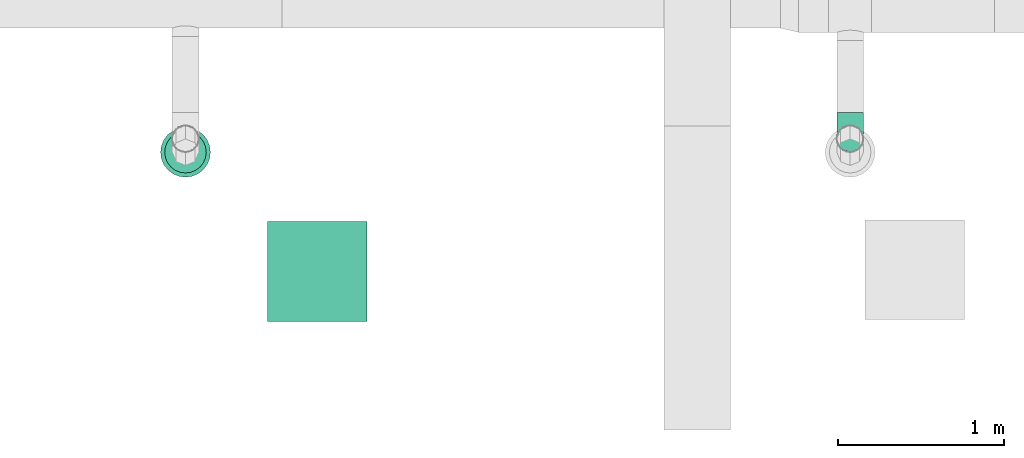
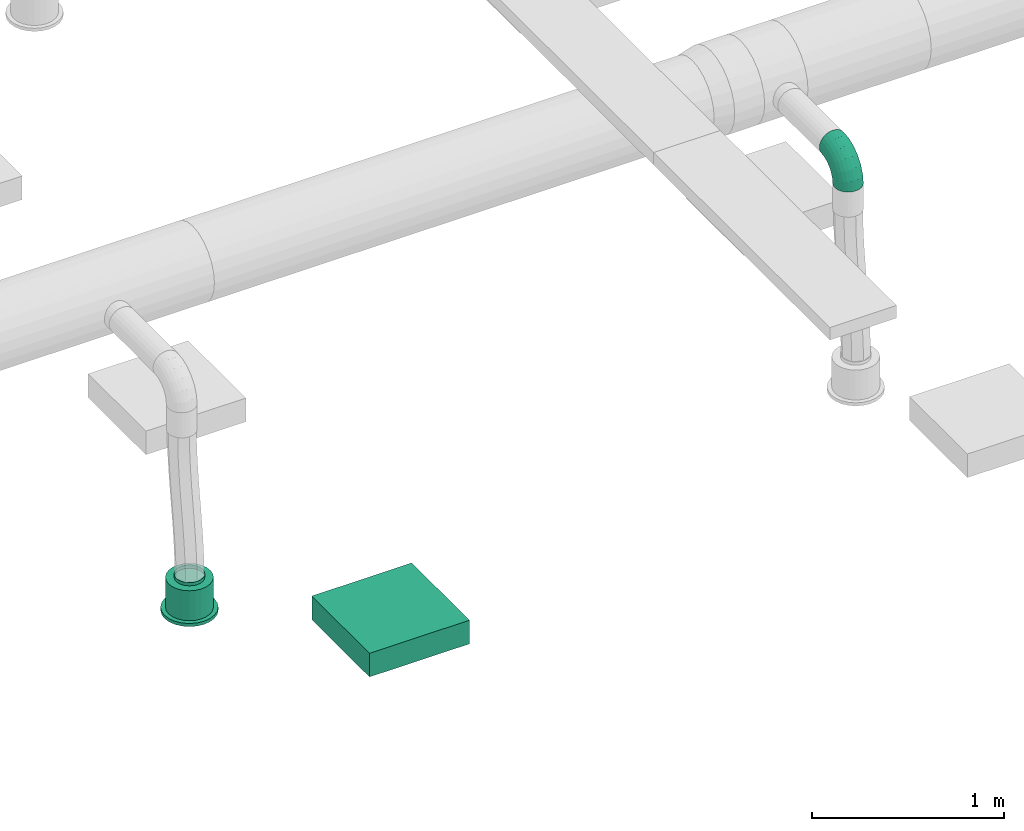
# One storey, part 70 of 374: 1 distribution element, 1 flow fitting, 1 flow terminal.
"""IFC2X3 building model written with IfcOpenShell, lengths in metres."""

import ifcopenshell
import ifcopenshell.guid

model = None  # the IFC model being written
_history = None  # IfcOwnerHistory: only IFC2X3 demands one
_inside = {}  # id of a spatial element -> (the spatial element, [elements in it])
_under = {}  # id of a project, library or spatial element -> (it, [spatial elements below it])
_declared = {}  # id of a project -> (the project, [libraries it declares])
_typed = {}  # id of a type object -> (the type object, [elements of that type])
_made_of = {}  # id of a material, layer set ... -> (it, [elements and type objects made of it])


def new_model(schema):
    """Start an empty IFC model of exactly this schema.

    Asked for "IFC4X3", IfcOpenShell would pick the latest addendum, in which some entities
    have other attributes; the version numbers below select the first issue.
    IFC2X3 requires an IfcOwnerHistory on every rooted entity: one is made here for all.
    """
    global model, _history
    if schema == "IFC4X3":
        model = ifcopenshell.file(schema_version=(4, 3, 0, 0))
    else:
        model = ifcopenshell.file(schema=schema)
    _inside.clear()
    _under.clear()
    _declared.clear()
    _typed.clear()
    _made_of.clear()
    _history = None
    if model.schema == "IFC2X3":
        org = make("IfcOrganization", Name="unknown")
        user = make(
            "IfcPersonAndOrganization",
            ThePerson=make("IfcPerson", FamilyName="unknown"),
            TheOrganization=org,
        )
        app = make(
            "IfcApplication",
            ApplicationDeveloper=org,
            Version="unknown",
            ApplicationFullName="unknown",
            ApplicationIdentifier="unknown",
        )
        _history = make(
            "IfcOwnerHistory",
            OwningUser=user,
            OwningApplication=app,
            ChangeAction="ADDED",
            CreationDate=0,
        )
    return model


def make(cls, **values):
    """One entity of the class cls with the attributes given. An attribute that is None is left unset."""
    return model.create_entity(
        cls, **{name: value for name, value in values.items() if value is not None}
    )


def rooted(cls, **values):
    """An entity with a GlobalId (a new one), such as an element, a storey or a relation."""
    return make(cls, GlobalId=ifcopenshell.guid.new(), OwnerHistory=_history, **values)


def si_unit(unit_type, name, prefix=None):
    """IfcSIUnit, for example si_unit("LENGTHUNIT", "METRE", prefix="MILLI")."""
    return make("IfcSIUnit", UnitType=unit_type, Prefix=prefix, Name=name)


def assignment(units):
    """IfcUnitAssignment: the units of a project."""
    return None if units is None else make("IfcUnitAssignment", Units=units)


def point(xyz):
    """IfcCartesianPoint."""
    return None if xyz is None else make("IfcCartesianPoint", Coordinates=xyz)


def direction(xyz):
    """IfcDirection."""
    return None if xyz is None else make("IfcDirection", DirectionRatios=xyz)


def frame(location, z_axis=None, x_axis=None):
    """IfcAxis2Placement3D, a coordinate frame: its origin and axes. An axis left out is left unset."""
    return make(
        "IfcAxis2Placement3D",
        Location=point(location),
        Axis=direction(z_axis),
        RefDirection=direction(x_axis),
    )


def frame_2d(location, x_axis=None):
    """IfcAxis2Placement2D, a coordinate frame in the plane: its origin and x axis."""
    return make(
        "IfcAxis2Placement2D", Location=point(location), RefDirection=direction(x_axis)
    )


def origin():
    """The frame at (0, 0, 0) with its axes left unset."""
    return frame((0.0, 0.0, 0.0))


def place(relative_to, where):
    """IfcLocalPlacement: puts the frame where relative to a parent placement (None: the world)."""
    return make(
        "IfcLocalPlacement", PlacementRelTo=relative_to, RelativePlacement=where
    )


def context(
    kind, dimensions, precision=None, world=None, true_north=None, identifier=None
):
    """IfcGeometricRepresentationContext, for example the 3D "Model" context."""
    return make(
        "IfcGeometricRepresentationContext",
        ContextIdentifier=identifier,
        ContextType=kind,
        CoordinateSpaceDimension=dimensions,
        Precision=precision,
        WorldCoordinateSystem=world,
        TrueNorth=true_north,
    )


def subcontext(parent, identifier, kind, view, scale=None):
    """IfcGeometricRepresentationSubContext, for example "Body" below "Model"."""
    return make(
        "IfcGeometricRepresentationSubContext",
        ContextIdentifier=identifier,
        ContextType=kind,
        ParentContext=parent,
        TargetScale=scale,
        TargetView=view,
    )


def project(units=None, contexts=None):
    """IfcProject with its units and contexts."""
    return rooted(
        "IfcProject",
        Name="project",
        RepresentationContexts=contexts,
        UnitsInContext=assignment(units),
    )


def spatial(cls, under=None, at=None, **own):
    """A site, building, storey or space (cls), placed at a placement, below another one or the project."""
    s = rooted(cls, ObjectPlacement=at, **own)
    if under is not None:
        _under.setdefault(under.id(), (under, []))[1].append(s)
    return s


def profile(cls, at=None, kind="AREA", **sizes):
    """A parametric profile (cls). Its sizes go by their IFC names, for example OverallWidth=200.0."""
    return make(cls, ProfileType=kind, Position=at, **sizes)


def rectangle(**sizes):
    """IfcRectangleProfileDef."""
    return profile("IfcRectangleProfileDef", **sizes)


def extrude(swept, where, along, depth):
    """IfcExtrudedAreaSolid: the profile swept, set in the frame where, extruded along a direction by depth."""
    return make(
        "IfcExtrudedAreaSolid",
        SweptArea=swept,
        Position=where,
        ExtrudedDirection=direction(along),
        Depth=depth,
    )


def faces_of(points, faces, orient=None, outer=None):
    """IfcFace entities. A face is a list of loops; a loop is a list of indices into points, from 0.

    orient and outer hold one flag for each loop. By default every Orientation is true, the
    first loop of a face is its IfcFaceOuterBound and the others are IfcFaceBound.
    """
    made = []
    for i, loops in enumerate(faces):
        bounds = []
        for j, loop in enumerate(loops):
            is_outer = j == 0 if outer is None else outer[i][j]
            bounds.append(
                make(
                    "IfcFaceOuterBound" if is_outer else "IfcFaceBound",
                    Bound=make("IfcPolyLoop", Polygon=[points[k] for k in loop]),
                    Orientation=True if orient is None else orient[i][j],
                )
            )
        made.append(make("IfcFace", Bounds=bounds))
    return made


def open_shell(faces, orient=None, outer=None):
    """The faces of one IfcOpenShell. surface_model builds it on its shared points."""
    return ("IfcOpenShell", faces, orient, outer)


def surface_model(cls, points, shells):
    """IfcFaceBasedSurfaceModel or IfcShellBasedSurfaceModel (cls): surfaces that need not close."""
    shared = [point(p) for p in points]
    made = [make(c, CfsFaces=faces_of(shared, fs, o, b)) for c, fs, o, b in shells]
    if cls == "IfcFaceBasedSurfaceModel":
        return make(cls, FbsmFaces=made)
    return make(cls, SbsmBoundary=made)


def shape(context_of_items, identifier, shape_type, items):
    """IfcShapeRepresentation: the items that make up one representation, for example the "Body"."""
    return make(
        "IfcShapeRepresentation",
        ContextOfItems=context_of_items,
        RepresentationIdentifier=identifier,
        RepresentationType=shape_type,
        Items=items,
    )


def source(mapping_origin, context_of_items, identifier, shape_type, items):
    """IfcRepresentationMap: a shape defined once, which mapped items show again and again."""
    return make(
        "IfcRepresentationMap",
        MappingOrigin=mapping_origin,
        MappedRepresentation=shape(context_of_items, identifier, shape_type, items),
    )


def transform(
    local_origin,
    x_axis=None,
    y_axis=None,
    z_axis=None,
    scale=None,
    scale2=None,
    scale3=None,
    uniform=True,
):
    """IfcCartesianTransformationOperator3D, or its non-uniform kind. x_axis, y_axis, z_axis: its Axis1, 2, 3."""
    if uniform:
        return make(
            "IfcCartesianTransformationOperator3D",
            Axis1=direction(x_axis),
            Axis2=direction(y_axis),
            LocalOrigin=point(local_origin),
            Scale=scale,
            Axis3=direction(z_axis),
        )
    return make(
        "IfcCartesianTransformationOperator3DnonUniform",
        Axis1=direction(x_axis),
        Axis2=direction(y_axis),
        LocalOrigin=point(local_origin),
        Scale=scale,
        Axis3=direction(z_axis),
        Scale2=scale2,
        Scale3=scale3,
    )


def mapped(mapping_source, mapping_target):
    """IfcMappedItem: shows the shape of a source again, moved by a transform."""
    return make(
        "IfcMappedItem", MappingSource=mapping_source, MappingTarget=mapping_target
    )


def made_of(thing, what):
    """Note that an element or type object is made of a material, layer set ...; save() writes the relation."""
    if what is not None:
        _made_of.setdefault(what.id(), (what, []))[1].append(thing)
    return thing


def element(
    cls,
    number,
    at=None,
    inside=None,
    cuts=None,
    type_object=None,
    material=None,
    context=None,
    identifier="Body",
    shape_type=None,
    held_by="IfcProductDefinitionShape",
    body=None,
    shapes=None,
    **own,
):
    """One element of the class cls, such as IfcWall. Its Tag is "e" and its number.

    at: its placement. inside: the storey or other place that contains it. cuts: it is an
    opening in that element (IfcRelVoidsElement). A single representation is given by context,
    identifier, shape_type and body (its items); several are given by shapes. held_by: the class
    of the entity that holds the representations. save() writes the other relations.
    """
    e = rooted(cls, Tag="e%d" % number, ObjectPlacement=at, **own)
    if body is not None:
        shapes = [shape(context, identifier, shape_type, body)]
    if shapes is not None:
        e.Representation = make(held_by, Representations=shapes)
    if inside is not None:
        _inside.setdefault(inside.id(), (inside, []))[1].append(e)
    if cuts is not None:
        rooted(
            "IfcRelVoidsElement", RelatingBuildingElement=cuts, RelatedOpeningElement=e
        )
    if type_object is not None:
        _typed.setdefault(type_object.id(), (type_object, []))[1].append(e)
    return made_of(e, material)


def aggregate(whole, parts):
    """IfcRelAggregates: a whole, such as a stair, and the parts it consists of."""
    return rooted("IfcRelAggregates", RelatingObject=whole, RelatedObjects=parts)


def save(model, path):
    """Write the relations noted so far, then the file.

    IfcRelAggregates (storeys below a building ...), IfcRelContainedInSpatialStructure (elements
    in a storey), IfcRelDefinesByType, IfcRelAssociatesMaterial and IfcRelDeclares: one each for
    every whole, place, type object, material and project.
    """
    for whole, parts in _under.values():
        aggregate(whole, parts)
    for where, things in _inside.values():
        rooted(
            "IfcRelContainedInSpatialStructure",
            RelatedElements=things,
            RelatingStructure=where,
        )
    for kind, things in _typed.values():
        rooted("IfcRelDefinesByType", RelatedObjects=things, RelatingType=kind)
    for what, things in _made_of.values():
        rooted("IfcRelAssociatesMaterial", RelatedObjects=things, RelatingMaterial=what)
    for by, libraries in _declared.values():
        rooted("IfcRelDeclares", RelatingContext=by, RelatedDefinitions=libraries)
    model.write(path)


model = new_model("IFC2X3")

# Units and contexts
model_context = context("Model", 3, precision=1e-05, world=origin(), true_north=direction((-0.4480736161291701, 0.8939966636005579)))
body_context = subcontext(model_context, "Body", "Model", "MODEL_VIEW")
ifc_project = project(units=[si_unit("LENGTHUNIT", "METRE"), si_unit("AREAUNIT", "SQUARE_METRE"), si_unit("VOLUMEUNIT", "CUBIC_METRE"), si_unit("PLANEANGLEUNIT", "RADIAN"), si_unit("THERMODYNAMICTEMPERATUREUNIT", "KELVIN"), si_unit("MASSUNIT", "GRAM", prefix="KILO"), si_unit("TIMEUNIT", "SECOND")], contexts=[model_context])

# Site, building, storey
site_placement = place(None, origin())
site = spatial("IfcSite", under=ifc_project, at=site_placement, Name="Site 1", CompositionType="ELEMENT")
building_placement = place(site_placement, origin())
building = spatial("IfcBuilding", under=site, at=building_placement, Name="Undefined", CompositionType="ELEMENT")
storey_placement = place(building_placement, origin())
storey = spatial("IfcBuildingStorey", under=building, at=storey_placement, Name="Rez de chauss\x8ee", CompositionType="ELEMENT", Elevation=0.0)

# Flow terminal
shared_shape_1 = source(origin(), body_context, "Body", "SurfaceModel", [
    surface_model("IfcFaceBasedSurfaceModel", [(0.0, 0.0, 0.0), (0.03915785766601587, 0.0, 0.0), (0.03915785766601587, 0.020000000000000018, 0.0), (3.552713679e-15, 0.020000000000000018, 0.0), (0.07698144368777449, 0.0, -0.010134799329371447), (0.07698144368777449, 0.020000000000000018, -0.010134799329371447), (0.11089314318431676, 0.0, -0.02971372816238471), (0.11089314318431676, 0.020000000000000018, -0.02971372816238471), (0.13858192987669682, 0.0, -0.05740251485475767), (0.13858192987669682, 0.020000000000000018, -0.05740251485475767), (0.15816085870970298, 0.0, -0.09131421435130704), (0.15816085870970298, 0.020000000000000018, -0.09131421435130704), (0.16829565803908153, 0.0, -0.12913780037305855), (0.16829565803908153, 0.020000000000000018, -0.12913780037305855), (0.16829565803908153, 0.0, -0.16829565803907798), (0.16829565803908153, 0.020000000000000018, -0.16829565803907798), (0.15816085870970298, 0.0, -0.20611924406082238), (0.15816085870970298, 0.020000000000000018, -0.20611924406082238), (0.13858192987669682, 0.0, -0.24003094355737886), (0.13858192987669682, 0.020000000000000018, -0.24003094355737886), (0.11089314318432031, 0.0, -0.2677197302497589), (0.11089314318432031, 0.020000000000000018, -0.2677197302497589), (0.07698144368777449, 0.0, -0.2872986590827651), (0.07698144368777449, 0.020000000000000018, -0.2872986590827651), (0.039157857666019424, 0.0, -0.29743345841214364), (0.039157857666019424, 0.020000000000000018, -0.29743345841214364), (3.552713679e-15, 0.0, -0.29743345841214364), (3.552713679e-15, 0.020000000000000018, -0.29743345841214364), (-0.03782358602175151, 0.0, -0.2872986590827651), (-0.03782358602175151, 0.020000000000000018, -0.2872986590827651), (-0.07173528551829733, 0.0, -0.2677197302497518), (-0.07173528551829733, 0.020000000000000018, -0.2677197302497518), (-0.0994240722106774, 0.0, -0.24003094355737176), (-0.0994240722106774, 0.020000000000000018, -0.24003094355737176), (-0.11900300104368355, 0.0, -0.2061192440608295), (-0.11900300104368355, 0.020000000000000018, -0.2061192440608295), (-0.1291378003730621, 0.0, -0.16829565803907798), (-0.1291378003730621, 0.020000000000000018, -0.16829565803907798), (-0.1291378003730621, 0.0, -0.12913780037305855), (-0.1291378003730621, 0.020000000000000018, -0.12913780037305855), (-0.11900300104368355, 0.0, -0.09131421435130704), (-0.11900300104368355, 0.020000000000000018, -0.09131421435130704), (-0.0994240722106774, 0.0, -0.05740251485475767), (-0.0994240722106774, 0.020000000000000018, -0.05740251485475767), (-0.07173528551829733, 0.0, -0.029713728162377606), (-0.07173528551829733, 0.020000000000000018, -0.029713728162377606), (-0.03782358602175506, 0.0, -0.010134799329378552), (-0.03782358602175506, 0.020000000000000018, -0.010134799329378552), (0.019578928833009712, 0.0, -0.14871672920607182), (0.019578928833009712, 0.020000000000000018, -0.14871672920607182), (0.003263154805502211, 0.020000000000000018, -0.02478612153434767), (0.035894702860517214, 0.020000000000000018, -0.02478612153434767), (0.035894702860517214, 0.20999999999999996, -0.02478612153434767), (0.003263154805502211, 0.20999999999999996, -0.02478612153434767), (0.06741435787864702, 0.020000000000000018, -0.033231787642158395), (0.06741435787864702, 0.20999999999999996, -0.033231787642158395), (0.0956741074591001, 0.020000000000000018, -0.04954756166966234), (0.0956741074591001, 0.20999999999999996, -0.04954756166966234), (0.11874809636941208, 0.020000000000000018, -0.07262155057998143), (0.11874809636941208, 0.20999999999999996, -0.07262155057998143), (0.13506387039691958, 0.020000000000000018, -0.10088130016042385), (0.13506387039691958, 0.20999999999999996, -0.10088130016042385), (0.1435095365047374, 0.020000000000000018, -0.13240095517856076), (0.1435095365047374, 0.20999999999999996, -0.13240095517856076), (0.1435095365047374, 0.020000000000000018, -0.16503250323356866), (0.1435095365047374, 0.20999999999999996, -0.16503250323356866), (0.13506387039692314, 0.020000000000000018, -0.19655215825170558), (0.13506387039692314, 0.20999999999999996, -0.19655215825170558), (0.11874809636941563, 0.020000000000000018, -0.2248119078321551), (0.11874809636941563, 0.20999999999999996, -0.2248119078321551), (0.09567410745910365, 0.020000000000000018, -0.24788589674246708), (0.09567410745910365, 0.20999999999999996, -0.24788589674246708), (0.06741435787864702, 0.020000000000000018, -0.26420167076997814), (0.06741435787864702, 0.20999999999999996, -0.26420167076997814), (0.035894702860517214, 0.020000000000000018, -0.27264733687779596), (0.035894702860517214, 0.20999999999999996, -0.27264733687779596), (0.0032631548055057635, 0.020000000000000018, -0.27264733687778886), (0.0032631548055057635, 0.20999999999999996, -0.27264733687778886), (-0.028256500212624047, 0.020000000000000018, -0.26420167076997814), (-0.028256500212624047, 0.20999999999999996, -0.26420167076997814), (-0.05651624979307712, 0.020000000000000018, -0.2478858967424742), (-0.05651624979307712, 0.20999999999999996, -0.2478858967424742), (-0.07959023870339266, 0.020000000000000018, -0.2248119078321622), (-0.07959023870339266, 0.20999999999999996, -0.2248119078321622), (-0.09590601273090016, 0.020000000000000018, -0.19655215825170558), (-0.09590601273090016, 0.20999999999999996, -0.19655215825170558), (-0.10435167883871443, 0.020000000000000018, -0.16503250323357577), (-0.10435167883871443, 0.20999999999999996, -0.16503250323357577), (-0.10435167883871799, 0.020000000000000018, -0.13240095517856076), (-0.10435167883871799, 0.20999999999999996, -0.13240095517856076), (-0.09590601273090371, 0.020000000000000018, -0.10088130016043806), (-0.09590601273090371, 0.20999999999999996, -0.10088130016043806), (-0.07959023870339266, 0.020000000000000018, -0.07262155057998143), (-0.07959023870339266, 0.20999999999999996, -0.07262155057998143), (-0.056516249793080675, 0.020000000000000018, -0.04954756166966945), (-0.056516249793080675, 0.20999999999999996, -0.04954756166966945), (-0.028256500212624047, 0.020000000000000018, -0.033231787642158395), (-0.028256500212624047, 0.20999999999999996, -0.033231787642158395), (0.019578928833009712, 0.20999999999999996, -0.14871672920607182), (0.009136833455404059, 0.20999999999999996, -0.06940114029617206), (0.030021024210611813, 0.20999999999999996, -0.06940114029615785), (0.030021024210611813, 0.22999999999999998, -0.06940114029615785), (0.009136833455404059, 0.22999999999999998, -0.06940114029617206), (0.05019360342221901, 0.20999999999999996, -0.07480636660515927), (0.05019360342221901, 0.22999999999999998, -0.07480636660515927), (0.06827984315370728, 0.20999999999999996, -0.08524846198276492), (0.06827984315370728, 0.22999999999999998, -0.08524846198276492), (0.0830471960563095, 0.20999999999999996, -0.10001581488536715), (0.0830471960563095, 0.22999999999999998, -0.10001581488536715), (0.0934892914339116, 0.20999999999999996, -0.11810205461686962), (0.0934892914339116, 0.22999999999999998, -0.11810205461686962), (0.09889451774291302, 0.20999999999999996, -0.13827463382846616), (0.09889451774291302, 0.22999999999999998, -0.13827463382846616), (0.09889451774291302, 0.20999999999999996, -0.15915882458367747), (0.09889451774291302, 0.22999999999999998, -0.15915882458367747), (0.09348929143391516, 0.20999999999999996, -0.179331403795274), (0.09348929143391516, 0.22999999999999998, -0.179331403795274), (0.0830471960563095, 0.20999999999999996, -0.19741764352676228), (0.0830471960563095, 0.22999999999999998, -0.19741764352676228), (0.06827984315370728, 0.20999999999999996, -0.2121849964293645), (0.06827984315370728, 0.22999999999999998, -0.2121849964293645), (0.05019360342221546, 0.20999999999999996, -0.22262709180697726), (0.05019360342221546, 0.22999999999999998, -0.22262709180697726), (0.030021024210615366, 0.20999999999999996, -0.22803231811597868), (0.030021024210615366, 0.22999999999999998, -0.22803231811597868), (0.009136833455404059, 0.20999999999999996, -0.22803231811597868), (0.009136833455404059, 0.22999999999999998, -0.22803231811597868), (-0.011035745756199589, 0.20999999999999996, -0.22262709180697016), (-0.011035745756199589, 0.22999999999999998, -0.22262709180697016), (-0.0291219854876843, 0.20999999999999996, -0.2121849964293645), (-0.0291219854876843, 0.22999999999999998, -0.2121849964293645), (-0.043889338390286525, 0.20999999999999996, -0.19741764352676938), (-0.043889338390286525, 0.22999999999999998, -0.19741764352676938), (-0.05433143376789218, 0.20999999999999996, -0.17933140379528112), (-0.05433143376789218, 0.22999999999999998, -0.17933140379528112), (-0.05973666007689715, 0.20999999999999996, -0.15915882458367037), (-0.05973666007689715, 0.22999999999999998, -0.15915882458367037), (-0.0597366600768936, 0.20999999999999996, -0.13827463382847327), (-0.0597366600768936, 0.22999999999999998, -0.13827463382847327), (-0.05433143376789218, 0.20999999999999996, -0.11810205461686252), (-0.05433143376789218, 0.22999999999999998, -0.11810205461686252), (-0.043889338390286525, 0.20999999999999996, -0.10001581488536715), (-0.043889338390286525, 0.22999999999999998, -0.10001581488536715), (-0.02912198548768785, 0.20999999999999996, -0.08524846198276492), (-0.02912198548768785, 0.22999999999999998, -0.08524846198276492), (-0.011035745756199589, 0.20999999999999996, -0.07480636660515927), (-0.011035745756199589, 0.22999999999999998, -0.07480636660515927)], [open_shell([[[0, 1, 2, 3]], [[1, 4, 5, 2]], [[4, 6, 7, 5]], [[6, 8, 9, 7]], [[8, 10, 11, 9]], [[10, 12, 13, 11]], [[12, 14, 15, 13]], [[14, 16, 17, 15]], [[16, 18, 19, 17]], [[18, 20, 21, 19]], [[20, 22, 23, 21]], [[22, 24, 25, 23]], [[24, 26, 27, 25]], [[26, 28, 29, 27]], [[28, 30, 31, 29]], [[30, 32, 33, 31]], [[32, 34, 35, 33]], [[34, 36, 37, 35]], [[36, 38, 39, 37]], [[38, 40, 41, 39]], [[40, 42, 43, 41]], [[42, 44, 45, 43]], [[44, 46, 47, 45]], [[46, 0, 3, 47]], [[48, 1, 0]], [[48, 4, 1]], [[48, 6, 4]], [[48, 8, 6]], [[48, 10, 8]], [[48, 12, 10]], [[48, 14, 12]], [[48, 16, 14]], [[48, 18, 16]], [[48, 20, 18]], [[48, 22, 20]], [[48, 24, 22]], [[48, 26, 24]], [[48, 28, 26]], [[48, 30, 28]], [[48, 32, 30]], [[48, 34, 32]], [[48, 36, 34]], [[48, 38, 36]], [[48, 40, 38]], [[48, 42, 40]], [[48, 44, 42]], [[48, 46, 44]], [[48, 0, 46]], [[49, 47, 3]], [[49, 45, 47]], [[49, 43, 45]], [[49, 41, 43]], [[49, 39, 41]], [[49, 37, 39]], [[49, 35, 37]], [[49, 33, 35]], [[49, 31, 33]], [[49, 29, 31]], [[49, 27, 29]], [[49, 25, 27]], [[49, 23, 25]], [[49, 21, 23]], [[49, 19, 21]], [[49, 17, 19]], [[49, 15, 17]], [[49, 13, 15]], [[49, 11, 13]], [[49, 9, 11]], [[49, 7, 9]], [[49, 5, 7]], [[49, 2, 5]], [[49, 3, 2]], [[50, 51, 52, 53]], [[51, 54, 55, 52]], [[54, 56, 57, 55]], [[56, 58, 59, 57]], [[58, 60, 61, 59]], [[60, 62, 63, 61]], [[62, 64, 65, 63]], [[64, 66, 67, 65]], [[66, 68, 69, 67]], [[68, 70, 71, 69]], [[70, 72, 73, 71]], [[72, 74, 75, 73]], [[74, 76, 77, 75]], [[76, 78, 79, 77]], [[78, 80, 81, 79]], [[80, 82, 83, 81]], [[82, 84, 85, 83]], [[84, 86, 87, 85]], [[86, 88, 89, 87]], [[88, 90, 91, 89]], [[90, 92, 93, 91]], [[92, 94, 95, 93]], [[94, 96, 97, 95]], [[96, 50, 53, 97]], [[49, 51, 50]], [[49, 54, 51]], [[49, 56, 54]], [[49, 58, 56]], [[49, 60, 58]], [[49, 62, 60]], [[49, 64, 62]], [[49, 66, 64]], [[49, 68, 66]], [[49, 70, 68]], [[49, 72, 70]], [[49, 74, 72]], [[49, 76, 74]], [[49, 78, 76]], [[49, 80, 78]], [[49, 82, 80]], [[49, 84, 82]], [[49, 86, 84]], [[49, 88, 86]], [[49, 90, 88]], [[49, 92, 90]], [[49, 94, 92]], [[49, 96, 94]], [[49, 50, 96]], [[98, 97, 53]], [[98, 95, 97]], [[98, 93, 95]], [[98, 91, 93]], [[98, 89, 91]], [[98, 87, 89]], [[98, 85, 87]], [[98, 83, 85]], [[98, 81, 83]], [[98, 79, 81]], [[98, 77, 79]], [[98, 75, 77]], [[98, 73, 75]], [[98, 71, 73]], [[98, 69, 71]], [[98, 67, 69]], [[98, 65, 67]], [[98, 63, 65]], [[98, 61, 63]], [[98, 59, 61]], [[98, 57, 59]], [[98, 55, 57]], [[98, 52, 55]], [[98, 53, 52]], [[99, 100, 101, 102]], [[100, 103, 104, 101]], [[103, 105, 106, 104]], [[105, 107, 108, 106]], [[107, 109, 110, 108]], [[109, 111, 112, 110]], [[111, 113, 114, 112]], [[113, 115, 116, 114]], [[115, 117, 118, 116]], [[117, 119, 120, 118]], [[119, 121, 122, 120]], [[121, 123, 124, 122]], [[123, 125, 126, 124]], [[125, 127, 128, 126]], [[127, 129, 130, 128]], [[129, 131, 132, 130]], [[131, 133, 134, 132]], [[133, 135, 136, 134]], [[135, 137, 138, 136]], [[137, 139, 140, 138]], [[139, 141, 142, 140]], [[141, 143, 144, 142]], [[143, 145, 146, 144]], [[145, 99, 102, 146]]])]),
])
flow_terminal_placement = place(storey_placement, origin())
element("IfcFlowTerminal", 1, at=flow_terminal_placement, inside=storey, Name="Air diffuseur - bouche", ObjectType="Air diffuseur - bouche", context=body_context, shape_type="MappedRepresentation", body=[
    mapped(shared_shape_1, transform((54.29000138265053, 2.0299997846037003, 2.38), x_axis=(-0.9914448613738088, -0.13052619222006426, 0.0), y_axis=(0.0, 0.0, 1.0), z_axis=(-0.13052619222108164, 0.9914448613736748, 0.0))),
])

# Flow fitting
shared_shape_2 = source(origin(), body_context, "Body", "SurfaceModel", [
    surface_model("IfcFaceBasedSurfaceModel", [(0.06265257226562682, -8.8817842e-16, 0.0), (0.062296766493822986, 0.02088115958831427, -7.105427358e-15), (0.0003558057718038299, 0.020881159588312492, 7.105427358e-15), (0.0, 0.0, 0.0), (-0.059474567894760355, 0.022956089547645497, -0.015896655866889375), (-0.06051773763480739, 0.002098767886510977, -0.01607928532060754), (-0.11311701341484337, 0.02696454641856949, -0.04660663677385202), (-0.11477645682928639, 0.006153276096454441, -0.04714207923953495), (-0.15691588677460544, 0.0326333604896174, -0.09003710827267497), (-0.15907851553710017, 0.01188721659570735, -0.09107150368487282), (-0.18788636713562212, 0.03957621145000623, -0.14322835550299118), (-0.1904048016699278, 0.01890983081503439, -0.14487384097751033), (-0.2039178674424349, 0.04731995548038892, -0.20255548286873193), (-0.20662048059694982, 0.026742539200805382, -0.20488255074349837), (0.061253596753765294, 0.04103889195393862, -0.0053597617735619), (0.0013989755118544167, 0.04103889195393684, -0.005359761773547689), (-0.05641614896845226, 0.04304393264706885, -0.02072097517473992), (-0.10825177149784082, 0.04691737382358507, -0.050396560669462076), (-0.15057538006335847, 0.05239524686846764, -0.09236417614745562), (-0.18050269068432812, 0.05910424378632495, -0.14376379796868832), (-0.19599420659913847, 0.06658715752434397, -0.20109262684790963), (0.05959415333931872, 0.05909948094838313, -0.01571402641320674), (0.003058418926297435, 0.05909948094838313, -0.01571402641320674), (-0.05155090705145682, 0.06099334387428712, -0.030223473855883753), (-0.10051228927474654, 0.06465200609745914, -0.058253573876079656), (-0.1404890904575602, 0.0698261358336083, -0.09789412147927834), (-0.16875695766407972, 0.0761631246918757, -0.14644367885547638), (-0.18338948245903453, 0.08323111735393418, -0.2005936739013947), (0.057431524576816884, 0.07383212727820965, -0.030357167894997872), (0.005221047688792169, 0.07383212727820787, -0.03035716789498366), (-0.0452104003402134, 0.07558110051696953, -0.04375657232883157), (-0.09042599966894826, 0.07895985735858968, -0.06964223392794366), (-0.12734438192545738, 0.08373814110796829, -0.10625008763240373), (-0.15344962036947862, 0.08959031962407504, -0.15108536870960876), (-0.16696268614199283, 0.0961175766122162, -0.20109262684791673), (0.054913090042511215, 0.0842328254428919, -0.048291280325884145), (0.007739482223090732, 0.08423282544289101, -0.04829128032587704), (-0.037826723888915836, 0.08581307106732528, -0.06039801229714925), (-0.07868026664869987, 0.08886587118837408, -0.08378642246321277), (-0.11203704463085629, 0.09318318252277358, -0.11686262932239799), (-0.13562384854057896, 0.09847078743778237, -0.1573725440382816), (-0.14783327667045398, 0.10436834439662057, -0.20255548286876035), (0.05221047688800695, 0.0895927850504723, -0.06829418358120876), (0.010442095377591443, 0.08959278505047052, -0.06829418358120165), (-0.029903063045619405, 0.09099196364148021, -0.07901370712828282), (-0.06607554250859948, 0.09369496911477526, -0.0997222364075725), (-0.0956102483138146, 0.0975175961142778, -0.12900851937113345), (-0.11649443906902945, 0.10219933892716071, -0.16487674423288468), (-0.12730489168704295, 0.1074211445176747, -0.2048825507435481), (0.04950786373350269, 0.08954673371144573, -0.08900271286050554), (0.013144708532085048, 0.08954673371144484, -0.08900271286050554), (-0.02197940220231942, 0.09076484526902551, -0.09833502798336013), (-0.05347081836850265, 0.09311805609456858, -0.11636367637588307), (-0.0791834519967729, 0.09644599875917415, -0.14186003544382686), (-0.09736502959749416, 0.10052187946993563, -0.17308657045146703), (-0.10677650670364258, 0.1050679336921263, -0.20791524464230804), (0.04698942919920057, 0.08409780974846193, -0.10900561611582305), (0.015663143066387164, 0.08409780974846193, -0.10900561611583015), (-0.014595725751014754, 0.08514719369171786, -0.11704525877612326), (-0.0417250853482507, 0.0871744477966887, -0.13257665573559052), (-0.06387611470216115, 0.09004141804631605, -0.15454136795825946), (-0.07953925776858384, 0.09355272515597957, -0.1814425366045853), (-0.08764709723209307, 0.09746907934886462, -0.21144689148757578), (0.04482680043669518, 0.0736173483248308, -0.12693972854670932), (0.017825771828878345, 0.0736173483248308, -0.12693972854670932), (-0.008255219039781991, 0.07452184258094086, -0.13386932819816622), (-0.03163879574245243, 0.0762691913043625, -0.14725628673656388), (-0.050731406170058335, 0.07874031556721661, -0.1661883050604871), (-0.06423192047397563, 0.08176681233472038, -0.18937519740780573), (-0.07122030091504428, 0.08514243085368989, -0.21523681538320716), (0.04316735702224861, 0.058819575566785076, -0.14158287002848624), (0.019485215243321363, 0.058819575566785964, -0.14158287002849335), (-0.0033899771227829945, 0.05961289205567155, -0.14766070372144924), (-0.02389931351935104, 0.06114546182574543, -0.15940217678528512), (-0.04064511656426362, 0.06331284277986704, -0.17600712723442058), (-0.052486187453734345, 0.06596733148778, -0.19634395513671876), (-0.05861557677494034, 0.06892802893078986, -0.2190267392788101), (0.04212418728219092, 0.040712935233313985, -0.15193713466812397), (0.020528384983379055, 0.040712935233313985, -0.15193713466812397), (-0.0003315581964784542, 0.041436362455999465, -0.15747952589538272), (-0.019034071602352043, 0.04283391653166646, -0.16818660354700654), (-0.03430460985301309, 0.04481035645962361, -0.1833286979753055), (-0.04510251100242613, 0.047230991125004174, -0.20187390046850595), (-0.05069191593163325, 0.04993085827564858, -0.22255838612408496), (0.04176838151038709, 0.02053136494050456, -0.15729689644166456), (0.020884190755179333, 0.02053136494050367, -0.15729689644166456), (0.0007116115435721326, 0.021230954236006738, -0.16265665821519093), (-0.017374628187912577, 0.022582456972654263, -0.17301092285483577), (-0.03214198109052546, 0.024493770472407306, -0.1876540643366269), (-0.042584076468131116, 0.026834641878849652, -0.20558817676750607), (-0.04798930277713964, 0.02944554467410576, -0.22559108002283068), (0.04212418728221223, -0.000349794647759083, -0.15729689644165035), (0.020528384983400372, -0.000349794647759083, -0.15729689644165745), (-0.0003315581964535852, 0.00037363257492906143, -0.1628392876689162), (-0.019034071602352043, 0.0017711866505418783, -0.17354636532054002), (-0.03430460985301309, 0.0037476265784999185, -0.18868845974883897), (-0.04510251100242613, 0.00616826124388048, -0.20723366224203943), (-0.05069191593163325, 0.008868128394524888, -0.22791814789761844), (0.04316735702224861, -0.020507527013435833, -0.15193713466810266), (0.019485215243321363, -0.020507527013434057, -0.15193713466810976), (-0.0033899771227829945, -0.019714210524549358, -0.15801496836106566), (-0.02389931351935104, -0.01818164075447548, -0.16975644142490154), (-0.04064511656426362, -0.01601425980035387, -0.186361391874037), (-0.052486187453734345, -0.013359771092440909, -0.20669821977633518), (-0.05861557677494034, -0.010399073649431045, -0.22938100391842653), (0.04482680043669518, -0.03856811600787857, -0.1415828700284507), (0.017825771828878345, -0.03856811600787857, -0.1415828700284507), (-0.008255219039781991, -0.03766362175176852, -0.1485124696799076), (-0.03163879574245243, -0.03591627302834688, -0.16189942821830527), (-0.050731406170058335, -0.03344514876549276, -0.1808314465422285), (-0.06423192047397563, -0.030418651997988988, -0.20401833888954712), (-0.07122030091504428, -0.027043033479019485, -0.22987995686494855), (0.04698942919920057, -0.05330076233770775, -0.12693972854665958), (0.015663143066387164, -0.05330076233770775, -0.12693972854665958), (-0.014595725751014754, -0.05225137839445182, -0.1349793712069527), (-0.0417250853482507, -0.05022412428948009, -0.15051076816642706), (-0.06387611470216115, -0.047357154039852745, -0.172475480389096), (-0.07953925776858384, -0.043845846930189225, -0.19937664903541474), (-0.08764709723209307, -0.03992949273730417, -0.2293810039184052), (0.04950786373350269, -0.06370146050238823, -0.10900561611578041), (0.013144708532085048, -0.06370146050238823, -0.10900561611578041), (-0.02197940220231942, -0.06248334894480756, -0.11833793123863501), (-0.05347081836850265, -0.06013013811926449, -0.13636657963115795), (-0.0791834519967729, -0.05680219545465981, -0.16186293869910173), (-0.09736502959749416, -0.05272631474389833, -0.1930894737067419), (-0.10677650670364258, -0.04818026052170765, -0.2279181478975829), (0.05221047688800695, -0.06906142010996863, -0.08900271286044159), (0.010442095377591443, -0.06906142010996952, -0.08900271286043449), (-0.029903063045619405, -0.06766224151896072, -0.09972223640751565), (-0.06607554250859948, -0.06495923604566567, -0.12043076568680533), (-0.0956102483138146, -0.06113660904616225, -0.14971704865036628), (-0.11649443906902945, -0.05645486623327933, -0.1855852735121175), (-0.12730489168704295, -0.05123306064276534, -0.22559108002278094), (0.054913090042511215, -0.06901536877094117, -0.06829418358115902), (0.007739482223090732, -0.06901536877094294, -0.06829418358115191), (-0.037826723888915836, -0.06743512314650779, -0.08040091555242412), (-0.07868026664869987, -0.06438232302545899, -0.10378932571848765), (-0.11203704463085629, -0.06006501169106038, -0.13686553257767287), (-0.13562384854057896, -0.0547774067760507, -0.17737544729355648), (-0.14783327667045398, -0.04887984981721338, -0.22255838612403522), (0.057431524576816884, -0.06356644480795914, -0.0482912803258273), (0.005221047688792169, -0.06356644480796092, -0.04829128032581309), (-0.0452104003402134, -0.061817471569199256, -0.0616906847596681), (-0.09042599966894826, -0.05843871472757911, -0.0875763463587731), (-0.12734438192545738, -0.05366043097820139, -0.12418420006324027), (-0.15344962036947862, -0.04780825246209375, -0.1690194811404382), (-0.16696268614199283, -0.041280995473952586, -0.21902673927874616), (0.05959415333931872, -0.05308598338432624, -0.030357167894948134), (0.003058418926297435, -0.05308598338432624, -0.030357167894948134), (-0.05155090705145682, -0.05119212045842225, -0.04486661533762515), (-0.10051228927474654, -0.04753345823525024, -0.07289671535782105), (-0.1404890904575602, -0.04235932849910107, -0.11253726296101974), (-0.16875695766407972, -0.03602233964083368, -0.16108682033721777), (-0.18338948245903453, -0.02895434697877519, -0.2152368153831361), (0.061253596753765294, -0.03828821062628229, -0.015714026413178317), (0.0013989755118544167, -0.03828821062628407, -0.015714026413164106), (-0.05641614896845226, -0.03628316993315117, -0.031075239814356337), (-0.10825177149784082, -0.03240972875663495, -0.06075082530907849), (-0.15057538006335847, -0.026931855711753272, -0.10271844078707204), (-0.18050269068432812, -0.02022285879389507, -0.15411806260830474), (-0.19599420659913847, -0.012739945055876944, -0.21144689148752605), (0.062296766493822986, -0.020181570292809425, -0.005359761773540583), (0.0003558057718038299, -0.020181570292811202, -0.0053597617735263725), (-0.059474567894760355, -0.018106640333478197, -0.021256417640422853), (-0.11311701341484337, -0.014098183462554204, -0.051966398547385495), (-0.15691588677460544, -0.00842936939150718, -0.09539687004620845), (-0.18788636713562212, -0.0014865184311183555, -0.14858811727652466), (-0.2039178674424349, 0.006257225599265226, -0.2079152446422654)], [open_shell([[[0, 1, 2, 3]], [[3, 2, 4, 5]], [[5, 4, 6, 7]], [[7, 6, 8, 9]], [[9, 8, 10, 11]], [[11, 10, 12, 13]], [[1, 14, 15, 2]], [[2, 15, 16, 4]], [[4, 16, 17, 6]], [[6, 17, 18, 8]], [[8, 18, 19, 10]], [[10, 19, 20, 12]], [[14, 21, 22, 15]], [[15, 22, 23, 16]], [[16, 23, 24, 17]], [[17, 24, 25, 18]], [[18, 25, 26, 19]], [[19, 26, 27, 20]], [[21, 28, 29, 22]], [[22, 29, 30, 23]], [[23, 30, 31, 24]], [[24, 31, 32, 25]], [[25, 32, 33, 26]], [[26, 33, 34, 27]], [[28, 35, 36, 29]], [[29, 36, 37, 30]], [[30, 37, 38, 31]], [[31, 38, 39, 32]], [[32, 39, 40, 33]], [[33, 40, 41, 34]], [[35, 42, 43, 36]], [[36, 43, 44, 37]], [[37, 44, 45, 38]], [[38, 45, 46, 39]], [[39, 46, 47, 40]], [[40, 47, 48, 41]], [[42, 49, 50, 43]], [[43, 50, 51, 44]], [[44, 51, 52, 45]], [[45, 52, 53, 46]], [[46, 53, 54, 47]], [[47, 54, 55, 48]], [[49, 56, 57, 50]], [[50, 57, 58, 51]], [[51, 58, 59, 52]], [[52, 59, 60, 53]], [[53, 60, 61, 54]], [[54, 61, 62, 55]], [[56, 63, 64, 57]], [[57, 64, 65, 58]], [[58, 65, 66, 59]], [[59, 66, 67, 60]], [[60, 67, 68, 61]], [[61, 68, 69, 62]], [[63, 70, 71, 64]], [[64, 71, 72, 65]], [[65, 72, 73, 66]], [[66, 73, 74, 67]], [[67, 74, 75, 68]], [[68, 75, 76, 69]], [[70, 77, 78, 71]], [[71, 78, 79, 72]], [[72, 79, 80, 73]], [[73, 80, 81, 74]], [[74, 81, 82, 75]], [[75, 82, 83, 76]], [[77, 84, 85, 78]], [[78, 85, 86, 79]], [[79, 86, 87, 80]], [[80, 87, 88, 81]], [[81, 88, 89, 82]], [[82, 89, 90, 83]], [[84, 91, 92, 85]], [[85, 92, 93, 86]], [[86, 93, 94, 87]], [[87, 94, 95, 88]], [[88, 95, 96, 89]], [[89, 96, 97, 90]], [[91, 98, 99, 92]], [[92, 99, 100, 93]], [[93, 100, 101, 94]], [[94, 101, 102, 95]], [[95, 102, 103, 96]], [[96, 103, 104, 97]], [[98, 105, 106, 99]], [[99, 106, 107, 100]], [[100, 107, 108, 101]], [[101, 108, 109, 102]], [[102, 109, 110, 103]], [[103, 110, 111, 104]], [[105, 112, 113, 106]], [[106, 113, 114, 107]], [[107, 114, 115, 108]], [[108, 115, 116, 109]], [[109, 116, 117, 110]], [[110, 117, 118, 111]], [[112, 119, 120, 113]], [[113, 120, 121, 114]], [[114, 121, 122, 115]], [[115, 122, 123, 116]], [[116, 123, 124, 117]], [[117, 124, 125, 118]], [[119, 126, 127, 120]], [[120, 127, 128, 121]], [[121, 128, 129, 122]], [[122, 129, 130, 123]], [[123, 130, 131, 124]], [[124, 131, 132, 125]], [[126, 133, 134, 127]], [[127, 134, 135, 128]], [[128, 135, 136, 129]], [[129, 136, 137, 130]], [[130, 137, 138, 131]], [[131, 138, 139, 132]], [[133, 140, 141, 134]], [[134, 141, 142, 135]], [[135, 142, 143, 136]], [[136, 143, 144, 137]], [[137, 144, 145, 138]], [[138, 145, 146, 139]], [[140, 147, 148, 141]], [[141, 148, 149, 142]], [[142, 149, 150, 143]], [[143, 150, 151, 144]], [[144, 151, 152, 145]], [[145, 152, 153, 146]], [[147, 154, 155, 148]], [[148, 155, 156, 149]], [[149, 156, 157, 150]], [[150, 157, 158, 151]], [[151, 158, 159, 152]], [[152, 159, 160, 153]], [[154, 161, 162, 155]], [[155, 162, 163, 156]], [[156, 163, 164, 157]], [[157, 164, 165, 158]], [[158, 165, 166, 159]], [[159, 166, 167, 160]], [[161, 0, 3, 162]], [[162, 3, 5, 163]], [[163, 5, 7, 164]], [[164, 7, 9, 165]], [[165, 9, 11, 166]], [[166, 11, 13, 167]]])]),
])
flow_fitting_placement = place(storey_placement, origin())
element("IfcFlowFitting", 2, at=flow_fitting_placement, inside=storey, Name="Coude", ObjectType="Coude", context=body_context, shape_type="MappedRepresentation", body=[
    mapped(shared_shape_2, transform((58.2900014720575, 1.8881775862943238, 3.702116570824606), x_axis=(9.56658874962e-13, -0.13052619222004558, -0.9914448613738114), y_axis=(0.9915887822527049, 0.12832103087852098, -0.01689378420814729), z_axis=(0.12942830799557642, -0.983105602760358, 0.1294283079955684))),
])

# Distribution element
distribution_element_placement = place(storey_placement, origin())
element("IfcDistributionElement", 3, at=distribution_element_placement, inside=storey, Name="Decken-Rechteckleuchte mit Rahmen AP", ObjectType="Decken-Rechteckleuchte mit Rahmen AP", context=body_context, shape_type="SweptSolid", body=[
    extrude(rectangle(XDim=0.6000000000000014, YDim=0.6000000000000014, at=frame_2d((3.552713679e-15, 0.0), x_axis=(0.0, 1.0))), frame((55.08360573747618, 1.1625, 2.5500000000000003), z_axis=(0.0, 0.0, -1.0), x_axis=(1.0, 0.0, 0.0)), (0.0, 0.0, 1.0), 0.15),
])

save(model, "model.ifc")
